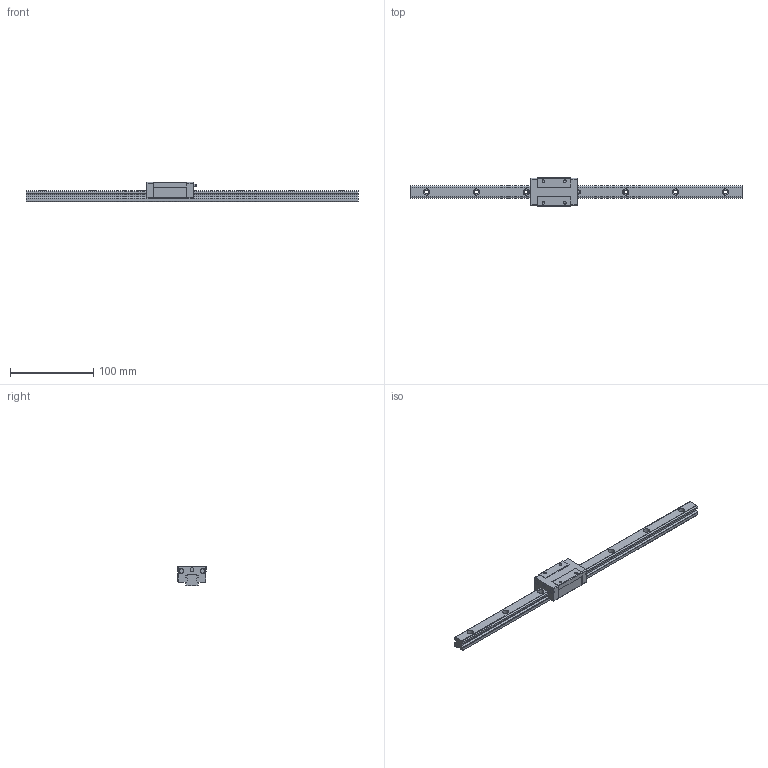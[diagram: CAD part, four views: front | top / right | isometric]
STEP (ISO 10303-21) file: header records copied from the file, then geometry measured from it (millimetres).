
FILE_DESCRIPTION((''),'2;1');
FILE_NAME('C:\Documents and Settings\土屋\My Documents\土屋移動用フォルダ\製品 (図面)\カタログ用3D\リニアガイド\LGS関連\LGS15.stp','2012-12-13T10:56:11',('y'),(''),'Autodesk Inventor 11','Autodesk Inventor 11','');
FILE_SCHEMA(('AUTOMOTIVE_DESIGN { 1 0 10303 214 1 1 1 1 }'));
Length unit declared in the file: millimetre
Products named in the file (3): LGS15(1); LGS15レール1
Assembly tree (2 placements, depth 2):
  LGS15(1)
    LGS15レール1
    LGS15(1)
Bounding box: 400 x 34 x 24 mm (x, y, z)
Volume: 98021.2 mm3; surface area: 34113.7 mm2
Topology: 2 solids, 2 shells, 133 faces, 327 edges, 217 vertices
Faces by surface type: plane 71, bspline 33, cylinder 25, sphere 2, cone 2
Full cylindrical faces by diameter (mm): 3 x1, 3.242 x2, 4 x1, 4.5 x1, 5.5 x2, 6 x2
Entity records: 4101 total; most frequent: CARTESIAN_POINT 1055, DIRECTION 590, ORIENTED_EDGE 570, EDGE_CURVE 285, VERTEX_POINT 211, EDGE_LOOP 202, AXIS2_PLACEMENT_3D 200, VECTOR 190
